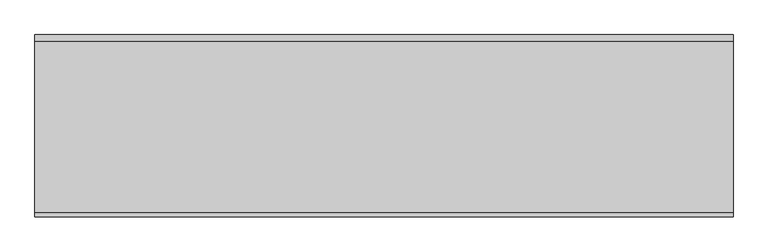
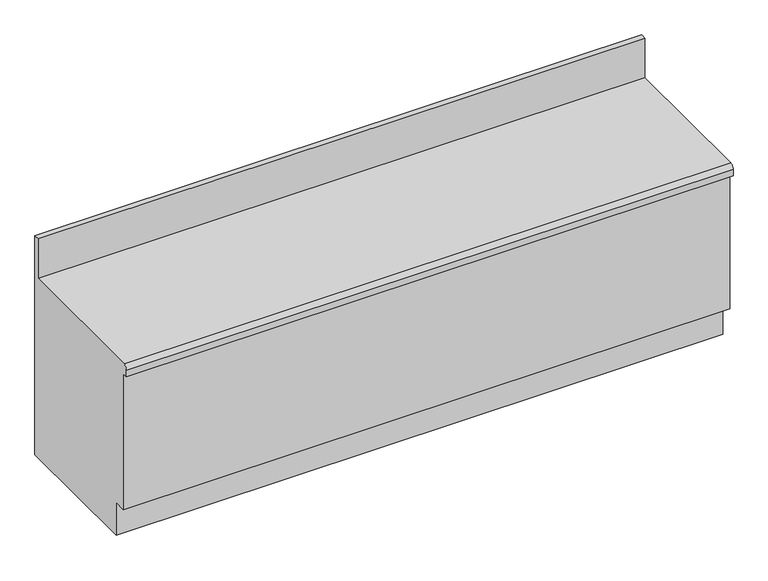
"""IFC4 building model written with IfcOpenShell, lengths in millimetres: flow terminal geometry, 桌上式台盆_多个 : 标准."""

import ifcopenshell
import ifcopenshell.guid

model = None  # the IFC model being written
_history = None  # IfcOwnerHistory: only IFC2X3 demands one
_inside = {}  # id of a spatial element -> (the spatial element, [elements in it])
_under = {}  # id of a project, library or spatial element -> (it, [spatial elements below it])
_declared = {}  # id of a project -> (the project, [libraries it declares])
_typed = {}  # id of a type object -> (the type object, [elements of that type])
_made_of = {}  # id of a material, layer set ... -> (it, [elements and type objects made of it])


def new_model(schema):
    """Start an empty IFC model of exactly this schema.

    Asked for "IFC4X3", IfcOpenShell would pick the latest addendum, in which some entities
    have other attributes; the version numbers below select the first issue.
    IFC2X3 requires an IfcOwnerHistory on every rooted entity: one is made here for all.
    """
    global model, _history
    if schema == "IFC4X3":
        model = ifcopenshell.file(schema_version=(4, 3, 0, 0))
    else:
        model = ifcopenshell.file(schema=schema)
    _inside.clear()
    _under.clear()
    _declared.clear()
    _typed.clear()
    _made_of.clear()
    _history = None
    if model.schema == "IFC2X3":
        org = make("IfcOrganization", Name="unknown")
        user = make(
            "IfcPersonAndOrganization",
            ThePerson=make("IfcPerson", FamilyName="unknown"),
            TheOrganization=org,
        )
        app = make(
            "IfcApplication",
            ApplicationDeveloper=org,
            Version="unknown",
            ApplicationFullName="unknown",
            ApplicationIdentifier="unknown",
        )
        _history = make(
            "IfcOwnerHistory",
            OwningUser=user,
            OwningApplication=app,
            ChangeAction="ADDED",
            CreationDate=0,
        )
    return model


def make(cls, **values):
    """One entity of the class cls with the attributes given. An attribute that is None is left unset."""
    return model.create_entity(
        cls, **{name: value for name, value in values.items() if value is not None}
    )


def rooted(cls, **values):
    """An entity with a GlobalId (a new one), such as an element, a storey or a relation."""
    return make(cls, GlobalId=ifcopenshell.guid.new(), OwnerHistory=_history, **values)


def si_unit(unit_type, name, prefix=None):
    """IfcSIUnit, for example si_unit("LENGTHUNIT", "METRE", prefix="MILLI")."""
    return make("IfcSIUnit", UnitType=unit_type, Prefix=prefix, Name=name)


def assignment(units):
    """IfcUnitAssignment: the units of a project."""
    return None if units is None else make("IfcUnitAssignment", Units=units)


def point(xyz):
    """IfcCartesianPoint."""
    return None if xyz is None else make("IfcCartesianPoint", Coordinates=xyz)


def direction(xyz):
    """IfcDirection."""
    return None if xyz is None else make("IfcDirection", DirectionRatios=xyz)


def frame(location, z_axis=None, x_axis=None):
    """IfcAxis2Placement3D, a coordinate frame: its origin and axes. An axis left out is left unset."""
    return make(
        "IfcAxis2Placement3D",
        Location=point(location),
        Axis=direction(z_axis),
        RefDirection=direction(x_axis),
    )


def frame_2d(location, x_axis=None):
    """IfcAxis2Placement2D, a coordinate frame in the plane: its origin and x axis."""
    return make(
        "IfcAxis2Placement2D", Location=point(location), RefDirection=direction(x_axis)
    )


def origin():
    """The frame at (0, 0, 0) with its axes left unset."""
    return frame((0.0, 0.0, 0.0))


def place(relative_to, where):
    """IfcLocalPlacement: puts the frame where relative to a parent placement (None: the world)."""
    return make(
        "IfcLocalPlacement", PlacementRelTo=relative_to, RelativePlacement=where
    )


def context(
    kind, dimensions, precision=None, world=None, true_north=None, identifier=None
):
    """IfcGeometricRepresentationContext, for example the 3D "Model" context."""
    return make(
        "IfcGeometricRepresentationContext",
        ContextIdentifier=identifier,
        ContextType=kind,
        CoordinateSpaceDimension=dimensions,
        Precision=precision,
        WorldCoordinateSystem=world,
        TrueNorth=true_north,
    )


def project(units=None, contexts=None):
    """IfcProject with its units and contexts."""
    return rooted(
        "IfcProject",
        Name="project",
        RepresentationContexts=contexts,
        UnitsInContext=assignment(units),
    )


def spatial(cls, under=None, at=None, **own):
    """A site, building, storey or space (cls), placed at a placement, below another one or the project."""
    s = rooted(cls, ObjectPlacement=at, **own)
    if under is not None:
        _under.setdefault(under.id(), (under, []))[1].append(s)
    return s


def polyline(points):
    """IfcPolyline through the points."""
    return make("IfcPolyline", Points=[point(p) for p in points])


def circle_curve(where, radius):
    """IfcCircle in the frame where."""
    return make("IfcCircle", Position=where, Radius=radius)


def trimmed(basis, trim1, trim2, sense, master):
    """IfcTrimmedCurve: the piece of a basis curve between two trims."""
    return make(
        "IfcTrimmedCurve",
        BasisCurve=basis,
        Trim1=trim1,
        Trim2=trim2,
        SenseAgreement=sense,
        MasterRepresentation=master,
    )


def segment(curve, same_sense, transition):
    """IfcCompositeCurveSegment."""
    return make(
        "IfcCompositeCurveSegment",
        Transition=transition,
        SameSense=same_sense,
        ParentCurve=curve,
    )


def composite_curve(segments, self_intersect=None):
    """IfcCompositeCurve: segments joined end to end."""
    return make("IfcCompositeCurve", Segments=segments, SelfIntersect=self_intersect)


def outline(outer, holes=None, kind="AREA"):
    """IfcArbitraryClosedProfileDef: a profile drawn as a closed curve; with holes, ...WithVoids."""
    if holes is None:
        return make("IfcArbitraryClosedProfileDef", ProfileType=kind, OuterCurve=outer)
    return make(
        "IfcArbitraryProfileDefWithVoids",
        ProfileType=kind,
        OuterCurve=outer,
        InnerCurves=holes,
    )


def extrude(swept, where, along, depth):
    """IfcExtrudedAreaSolid: the profile swept, set in the frame where, extruded along a direction by depth."""
    return make(
        "IfcExtrudedAreaSolid",
        SweptArea=swept,
        Position=where,
        ExtrudedDirection=direction(along),
        Depth=depth,
    )


def shape(context_of_items, identifier, shape_type, items):
    """IfcShapeRepresentation: the items that make up one representation, for example the "Body"."""
    return make(
        "IfcShapeRepresentation",
        ContextOfItems=context_of_items,
        RepresentationIdentifier=identifier,
        RepresentationType=shape_type,
        Items=items,
    )


def source(mapping_origin, context_of_items, identifier, shape_type, items):
    """IfcRepresentationMap: a shape defined once, which mapped items show again and again."""
    return make(
        "IfcRepresentationMap",
        MappingOrigin=mapping_origin,
        MappedRepresentation=shape(context_of_items, identifier, shape_type, items),
    )


def transform(
    local_origin,
    x_axis=None,
    y_axis=None,
    z_axis=None,
    scale=None,
    scale2=None,
    scale3=None,
    uniform=True,
):
    """IfcCartesianTransformationOperator3D, or its non-uniform kind. x_axis, y_axis, z_axis: its Axis1, 2, 3."""
    if uniform:
        return make(
            "IfcCartesianTransformationOperator3D",
            Axis1=direction(x_axis),
            Axis2=direction(y_axis),
            LocalOrigin=point(local_origin),
            Scale=scale,
            Axis3=direction(z_axis),
        )
    return make(
        "IfcCartesianTransformationOperator3DnonUniform",
        Axis1=direction(x_axis),
        Axis2=direction(y_axis),
        LocalOrigin=point(local_origin),
        Scale=scale,
        Axis3=direction(z_axis),
        Scale2=scale2,
        Scale3=scale3,
    )


def mapped(mapping_source, mapping_target):
    """IfcMappedItem: shows the shape of a source again, moved by a transform."""
    return make(
        "IfcMappedItem", MappingSource=mapping_source, MappingTarget=mapping_target
    )


def made_of(thing, what):
    """Note that an element or type object is made of a material, layer set ...; save() writes the relation."""
    if what is not None:
        _made_of.setdefault(what.id(), (what, []))[1].append(thing)
    return thing


def element(
    cls,
    number,
    at=None,
    inside=None,
    cuts=None,
    type_object=None,
    material=None,
    context=None,
    identifier="Body",
    shape_type=None,
    held_by="IfcProductDefinitionShape",
    body=None,
    shapes=None,
    **own,
):
    """One element of the class cls, such as IfcWall. Its Tag is "e" and its number.

    at: its placement. inside: the storey or other place that contains it. cuts: it is an
    opening in that element (IfcRelVoidsElement). A single representation is given by context,
    identifier, shape_type and body (its items); several are given by shapes. held_by: the class
    of the entity that holds the representations. save() writes the other relations.
    """
    e = rooted(cls, Tag="e%d" % number, ObjectPlacement=at, **own)
    if body is not None:
        shapes = [shape(context, identifier, shape_type, body)]
    if shapes is not None:
        e.Representation = make(held_by, Representations=shapes)
    if inside is not None:
        _inside.setdefault(inside.id(), (inside, []))[1].append(e)
    if cuts is not None:
        rooted(
            "IfcRelVoidsElement", RelatingBuildingElement=cuts, RelatedOpeningElement=e
        )
    if type_object is not None:
        _typed.setdefault(type_object.id(), (type_object, []))[1].append(e)
    return made_of(e, material)


def aggregate(whole, parts):
    """IfcRelAggregates: a whole, such as a stair, and the parts it consists of."""
    return rooted("IfcRelAggregates", RelatingObject=whole, RelatedObjects=parts)


def save(model, path):
    """Write the relations noted so far, then the file.

    IfcRelAggregates (storeys below a building ...), IfcRelContainedInSpatialStructure (elements
    in a storey), IfcRelDefinesByType, IfcRelAssociatesMaterial and IfcRelDeclares: one each for
    every whole, place, type object, material and project.
    """
    for whole, parts in _under.values():
        aggregate(whole, parts)
    for where, things in _inside.values():
        rooted(
            "IfcRelContainedInSpatialStructure",
            RelatedElements=things,
            RelatingStructure=where,
        )
    for kind, things in _typed.values():
        rooted("IfcRelDefinesByType", RelatedObjects=things, RelatingType=kind)
    for what, things in _made_of.values():
        rooted("IfcRelAssociatesMaterial", RelatedObjects=things, RelatingMaterial=what)
    for by, libraries in _declared.values():
        rooted("IfcRelDeclares", RelatingContext=by, RelatedDefinitions=libraries)
    model.write(path)


def flow_terminal_d0053564(model_context):
    return source(origin(), model_context, "Body", "SweptSolid", [
        extrude(outline(composite_curve([segment(polyline([(0.0, 832.0), (0.0, 0.0), (-505.0, 0.0), (-505.0, 125.0), (-550.0, 125.0), (-550.0, 642.0), (-570.0, 642.0), (-570.0, 667.0)]), True, "CONTINUOUS"), segment(trimmed(circle_curve(frame_2d((-555.0, 667.0)), 15.0), [point((-570.0, 667.0))], [point((-555.0, 682.0))], False, "CARTESIAN"), True, "CONTINUOUS"), segment(polyline([(-555.0, 682.0), (-20.0, 682.0), (-20.0, 832.0), (0.0, 832.0)]), True, "CONTINUOUS")], self_intersect=False)), frame((-713.6377035, 0.0, 0.0), z_axis=(1.0, 0.0, 0.0), x_axis=(0.0, 1.0, 0.0)), (0.0, 0.0, 1.0), 2180.0),
    ])


if __name__ == "__main__":
    model = new_model("IFC4")
    model_context = context("Model", 3, world=origin())
    ifc_project = project(units=[si_unit("LENGTHUNIT", "METRE", prefix="MILLI")], contexts=[model_context])
    site = spatial("IfcSite", under=ifc_project)
    building = spatial("IfcBuilding", under=site)
    placement = place(None, origin())
    flow_terminal_shape = flow_terminal_d0053564(model_context)
    element("IfcFlowTerminal", 1, ObjectType="桌上式台盆_多个 : 标准", at=placement, inside=building, context=model_context, shape_type="MappedRepresentation", body=[
        mapped(flow_terminal_shape, transform((0.0, 0.0, 0.0), x_axis=(1.0, 0.0, 0.0), y_axis=(0.0, 1.0, 0.0), z_axis=(0.0, 0.0, 1.0))),
    ])
    save(model, "model.ifc")
